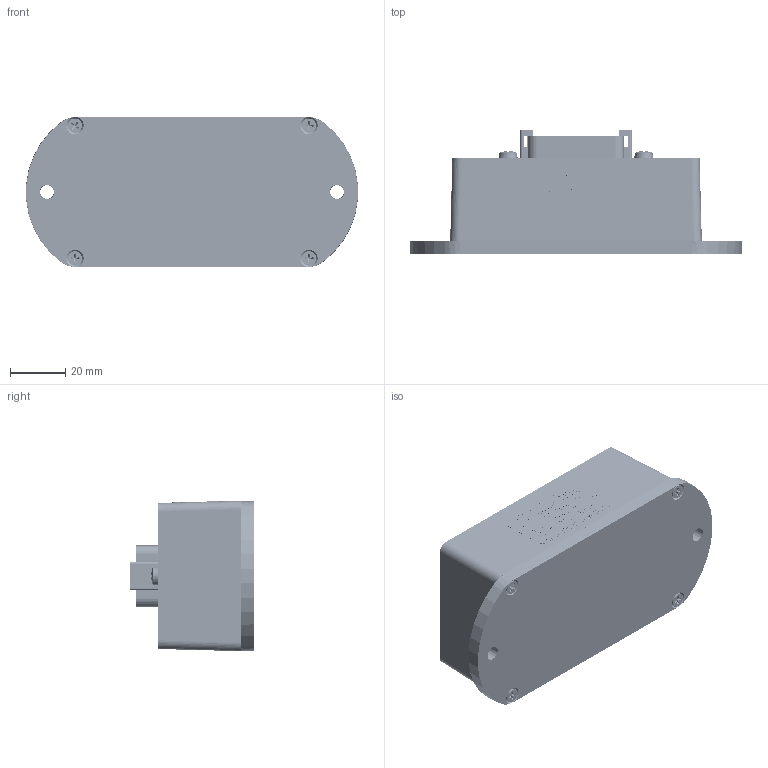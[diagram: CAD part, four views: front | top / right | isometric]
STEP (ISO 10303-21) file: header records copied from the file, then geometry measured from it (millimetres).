
FILE_DESCRIPTION(/* description */ (''),/* implementation_level */ '2;1');
FILE_NAME(/* name */ 'S:\Projects\RS485-MODBUS-ENET-AXIO, AX141810, Proj_20149\MECHANICAL\Rev 1\FG-AX141810.stp',/* time_stamp */ '2020-11-26T15:20:21-05:00',/* author */ ('elondono'),/* organization */ (''),/* preprocessor_version */ 'ST-DEVELOPER v16.13',/* originating_system */ 'Autodesk Inventor 2018',/* authorisation */ '');
FILE_SCHEMA (('AUTOMOTIVE_DESIGN { 1 0 10303 214 3 1 1 }'));
Products named in the file (1): FG_Shrinkwrap_1
Bounding box: 120.68 x 45.14 x 54.65 mm (x, y, z)
Volume: 126235.3 mm3; surface area: 55417.4 mm2
Topology: 1 solids, 173 shells, 7578 faces, 20062 edges, 13167 vertices
Faces by surface type: plane 4896, bspline 1427, cylinder 1071, cone 82, sphere 52, torus 50
Full cylindrical faces by diameter (mm): 0.254 x4, 0.5 x1, 0.508 x140, 0.711 x2, 1.016 x30, 1.397 x2, 1.524 x6, 1.575 x24, 1.829 x12, 2.464 x4, 2.794 x12, 2.845 x4, 3 x4, 3.099 x2, 3.277 x4, 3.404 x4, 3.505 x2, 5.2 x4, 6.502 x4, 8.077 x2
Entity records: 249022 total; most frequent: CARTESIAN_POINT 61636, ORIENTED_EDGE 39216, DIRECTION 32891, EDGE_CURVE 19608, LINE 14207, VECTOR 14207, VERTEX_POINT 13073, AXIS2_PLACEMENT_3D 9342
